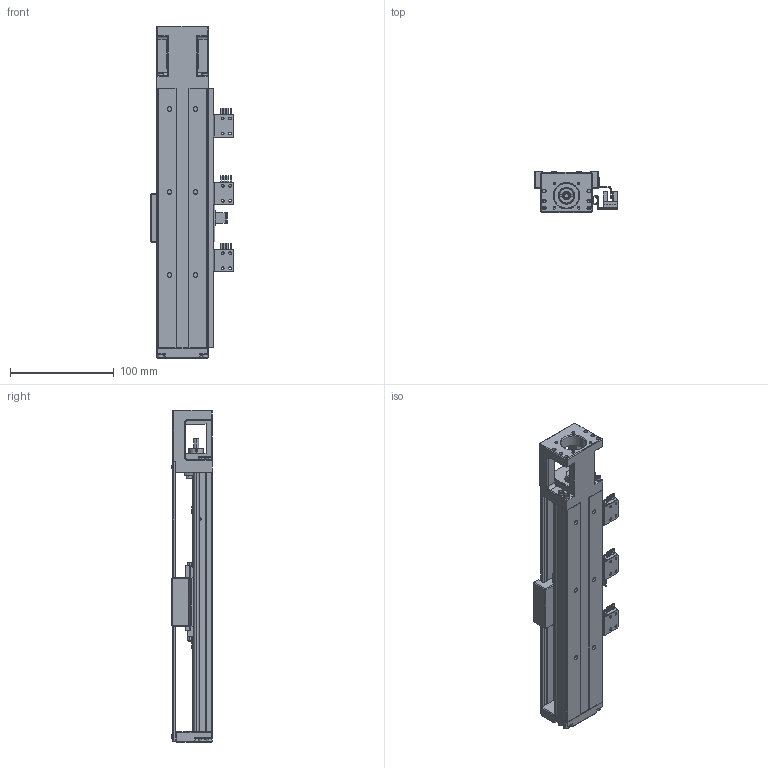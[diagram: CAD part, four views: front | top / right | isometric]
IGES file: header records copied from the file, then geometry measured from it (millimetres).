
Start section: SolidWorks IGES file using analytic representation for surfaces
Global section: file name: C:\Users\Administrator\Desktop\123\GSX50C-MF-250L-ﾓﾐｻｬﾌｨ.IGS; native system: SolidWorks 2013; preprocessor: SolidWorks 2013; author: ｹｾﾇｿ,; organization: 11; date: 170412.105233; units: millimetre
Bounding box: 80.3 x 40 x 320 mm (x, y, z)
Surface area: 151786 mm2 (no closed solid volume)
Topology: 0 solids, 0 shells, 1755 faces, 18628 edges, 18490 vertices
Faces by surface type: bspline 1083, revolution 672
